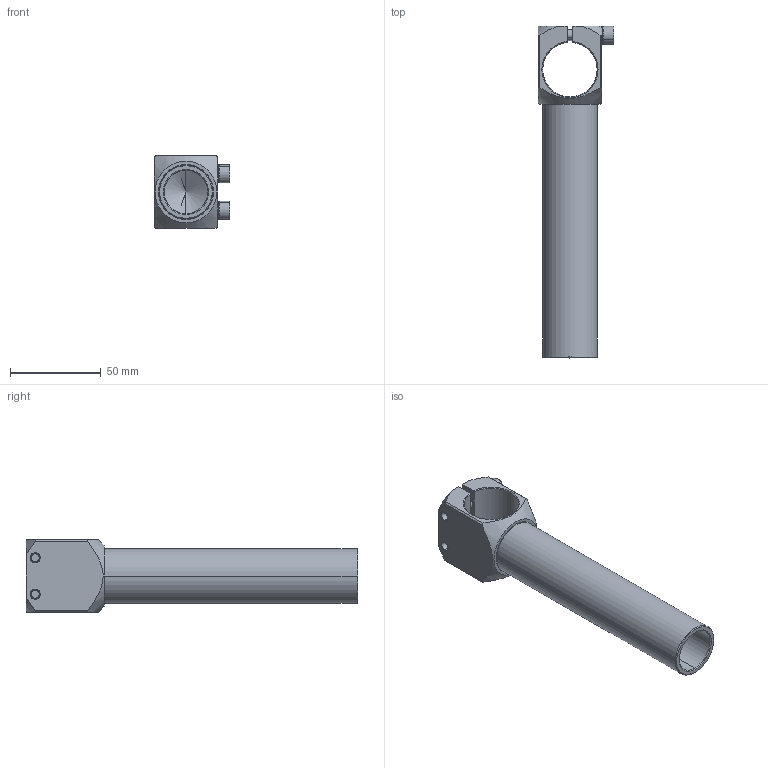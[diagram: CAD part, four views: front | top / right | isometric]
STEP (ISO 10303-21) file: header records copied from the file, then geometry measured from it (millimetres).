
FILE_DESCRIPTION (( 'STEP AP214' ), '1' );
FILE_NAME ('7.Y01005.STEP', '2021-04-20T02:05:38', ( '微软用户' ), ( '微软中国' ), 'SwSTEP 2.0', 'SolidWorks 2018', '' );
FILE_SCHEMA (( 'AUTOMOTIVE_DESIGN' ));
Length unit declared in the file: millimetre
Products named in the file (4): PTC-M6L30; PTS-M6; 2.Y07386; 7.Y01005
Assembly tree (5 placements, depth 2):
  7.Y01005
    2.Y07386
    PTS-M6  x2
    PTC-M6L30  x2
Bounding box: 41.65 x 183 x 40 mm (x, y, z)
Volume: 67659.2 mm3; surface area: 37661.3 mm2
Topology: 5 solids, 5 shells, 501 faces, 1410 edges, 919 vertices
Faces by surface type: plane 426, cylinder 35, cone 34, torus 6
Entity records: 9340 total; most frequent: CARTESIAN_POINT 1734, DIRECTION 1604, ORIENTED_EDGE 1548, EDGE_CURVE 774, AXIS2_PLACEMENT_3D 561, VERTEX_POINT 503, VECTOR 482, LINE 482
